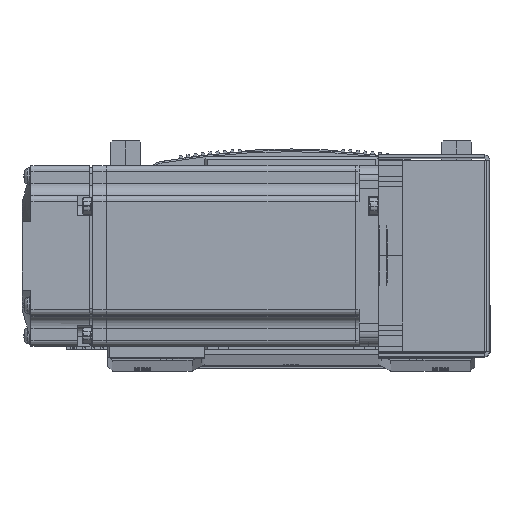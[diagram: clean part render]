
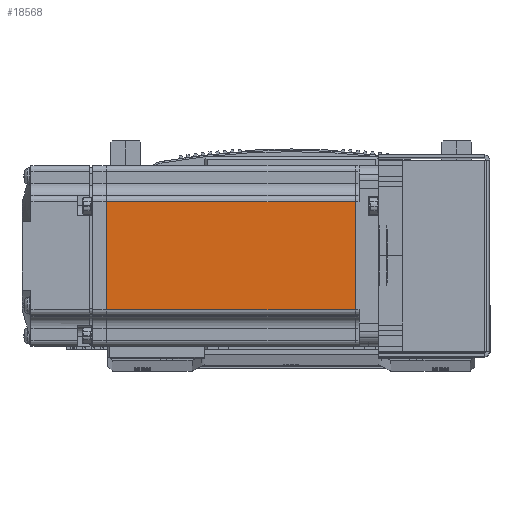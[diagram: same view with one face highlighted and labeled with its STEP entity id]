
A CAD part, top view. The second image highlights one B-rep face of the part: STEP entity #18568.
In plain terms, the highlighted planar face has unit normal (0, 0, 1) as drawn and (0, 1, 0) by its records, which use the part's own axes.
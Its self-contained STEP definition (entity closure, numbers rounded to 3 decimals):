
#8049 = VERTEX_POINT ( 'NONE', #87267 ) ;
#8061 = VERTEX_POINT ( 'NONE', #87235 ) ;
#8103 = VERTEX_POINT ( 'NONE', #86172 ) ;
#8105 = VERTEX_POINT ( 'NONE', #86149 ) ;
#18568 = ADVANCED_FACE ( 'NONE', ( #39810 ), #60232, .T. ) ;
#33451 = VECTOR ( 'NONE', #46100, 1000. ) ;
#33475 = LINE ( 'NONE', #46089, #33451 ) ;
#33610 = VECTOR ( 'NONE', #46266, 1000. ) ;
#33631 = LINE ( 'NONE', #46264, #33610 ) ;
#33641 = VECTOR ( 'NONE', #46370, 1000. ) ;
#33658 = LINE ( 'NONE', #46371, #33641 ) ;
#33768 = LINE ( 'NONE', #46697, #33769 ) ;
#33769 = VECTOR ( 'NONE', #46718, 1000. ) ;
#39810 = FACE_OUTER_BOUND ( 'NONE', #65586, .T. ) ;
#40990 = AXIS2_PLACEMENT_3D ( 'NONE', #60238, #60263, #60245 ) ;
#46089 = CARTESIAN_POINT ( 'NONE',  ( -6.5, 30., 18. ) ) ;
#46100 = DIRECTION ( 'NONE',  ( 1., 0., 0. ) ) ;
#46264 = CARTESIAN_POINT ( 'NONE',  ( -6.5, 30., -18. ) ) ;
#46266 = DIRECTION ( 'NONE',  ( -1., 0., 0. ) ) ;
#46370 = DIRECTION ( 'NONE',  ( 0., 0., 1. ) ) ;
#46371 = CARTESIAN_POINT ( 'NONE',  ( -7.75, 30., 0. ) ) ;
#46697 = CARTESIAN_POINT ( 'NONE',  ( -90.45, 30., 0. ) ) ;
#46718 = DIRECTION ( 'NONE',  ( 0., 0., 1. ) ) ;
#53844 = ORIENTED_EDGE ( 'NONE', *, *, #68074, .T. ) ;
#53944 = ORIENTED_EDGE ( 'NONE', *, *, #67974, .F. ) ;
#54005 = ORIENTED_EDGE ( 'NONE', *, *, #67936, .T. ) ;
#54007 = ORIENTED_EDGE ( 'NONE', *, *, #67831, .T. ) ;
#60232 = PLANE ( 'NONE',  #40990 ) ;
#60238 = CARTESIAN_POINT ( 'NONE',  ( -6.5, 30., 25. ) ) ;
#60245 = DIRECTION ( 'NONE',  ( 0., 0., 1. ) ) ;
#60263 = DIRECTION ( 'NONE',  ( 0., 1., 0. ) ) ;
#65586 = EDGE_LOOP ( 'NONE', ( #53944, #54005, #53844, #54007 ) ) ;
#67831 = EDGE_CURVE ( 'NONE', #8103, #8061, #33475, .T. ) ;
#67936 = EDGE_CURVE ( 'NONE', #8049, #8105, #33631, .T. ) ;
#67974 = EDGE_CURVE ( 'NONE', #8049, #8061, #33658, .T. ) ;
#68074 = EDGE_CURVE ( 'NONE', #8105, #8103, #33768, .T. ) ;
#86149 = CARTESIAN_POINT ( 'NONE',  ( -90.45, 30., -18. ) ) ;
#86172 = CARTESIAN_POINT ( 'NONE',  ( -90.45, 30., 18. ) ) ;
#87235 = CARTESIAN_POINT ( 'NONE',  ( -7.75, 30., 18. ) ) ;
#87267 = CARTESIAN_POINT ( 'NONE',  ( -7.75, 30., -18. ) ) ;
